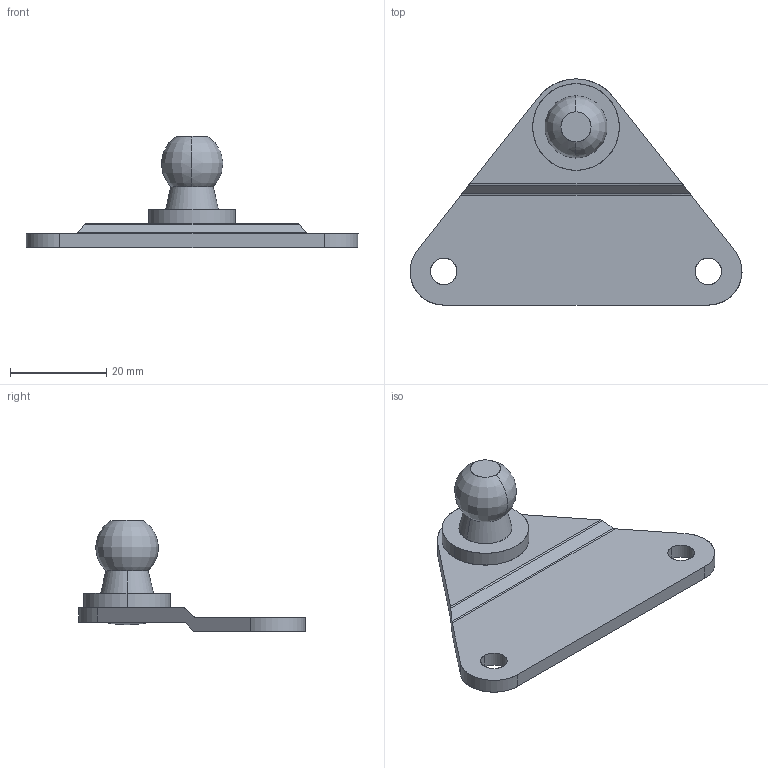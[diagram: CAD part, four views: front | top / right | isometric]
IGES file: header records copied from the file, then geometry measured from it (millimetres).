
Start section: SolidWorks IGES file using analytic representation for surfaces
Bounding box: 69 x 47 x 23.2 mm (x, y, z)
Surface area: 5522.4 mm2 (no closed solid volume)
Topology: 0 solids, 0 shells, 31 faces, 538 edges, 537 vertices
Faces by surface type: revolution 20, bspline 11
